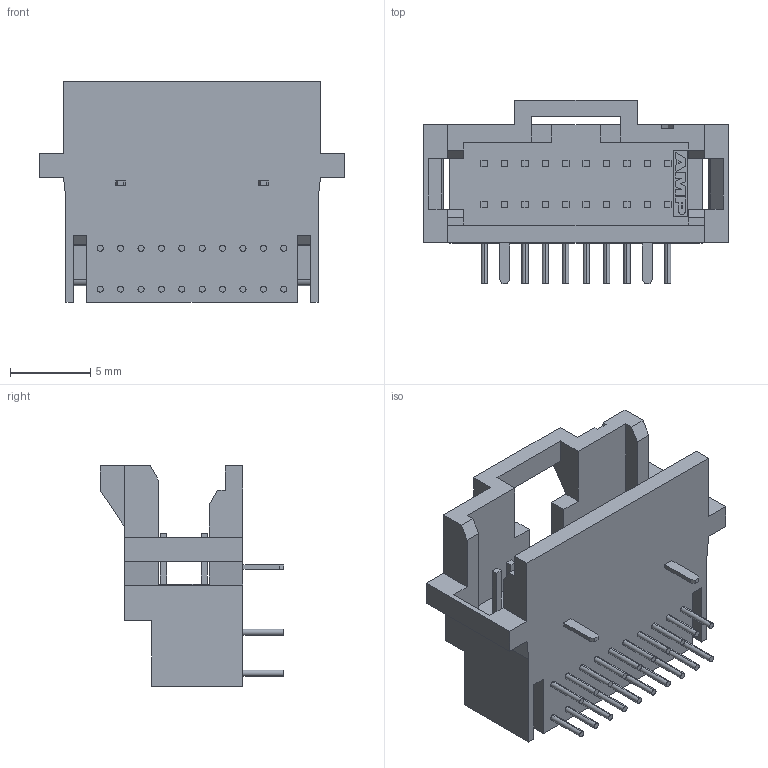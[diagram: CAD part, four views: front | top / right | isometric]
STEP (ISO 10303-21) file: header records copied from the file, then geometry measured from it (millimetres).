
FILE_DESCRIPTION (( 'STEP AP214' ), '1' );
FILE_NAME ('104069-1.step', '2011-05-17T08:43:38', ( 'vpeshkov' ), ( 'licard' ), 'SwSTEP 2.0', 'SolidWorks 2009', '' );
FILE_SCHEMA (( 'AUTOMOTIVE_DESIGN' ));
Length unit declared in the file: mil
Products named in the file (1): 104069-1
Bounding box: 19.05 x 11.43 x 13.72 mm (x, y, z)
Volume: 901.8 mm3; surface area: 1380.6 mm2
Topology: 1 solids, 1 shells, 306 faces, 782 edges, 520 vertices
Faces by surface type: plane 253, cylinder 51, bspline 2
Entity records: 11361 total; most frequent: CARTESIAN_POINT 1687, ORIENTED_EDGE 1564, DIRECTION 1488, EDGE_CURVE 782, LINE 674, VECTOR 674, VERTEX_POINT 520, AXIS2_PLACEMENT_3D 407
